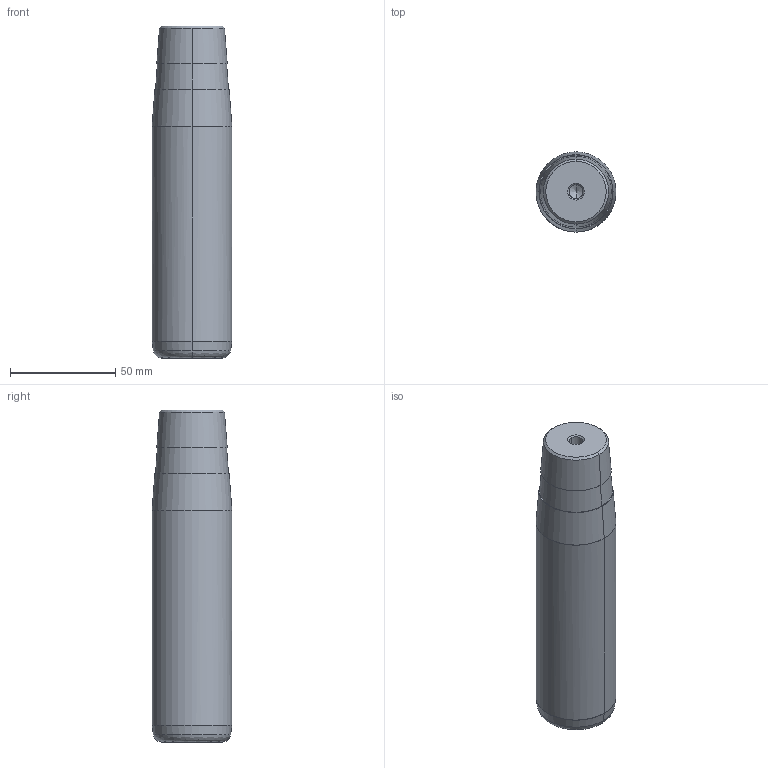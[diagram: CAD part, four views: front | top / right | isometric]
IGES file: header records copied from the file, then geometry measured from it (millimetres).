
Start section: START RECORD GO HERE.
Global section: file name: 722-38x125x158.igs; native system: DASSAULT SYSTEMES CATIA V5 R20 - www.3ds.com; preprocessor: CATIA Version 5 Release 20 ; author: Utente; organization: NB04-ASUS; date: 20210108.170640; units: millimetre
Bounding box: 38 x 38 x 158 mm (x, y, z)
Surface area: 20989.6 mm2 (no closed solid volume)
Topology: 0 solids, 0 shells, 32 faces, 192 edges, 188 vertices
Faces by surface type: revolution 30, plane 2
